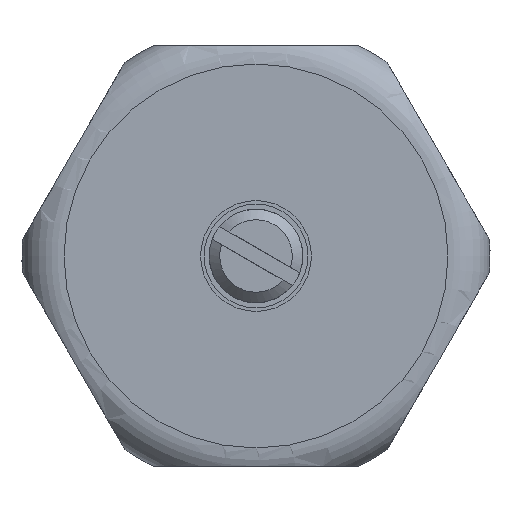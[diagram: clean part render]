
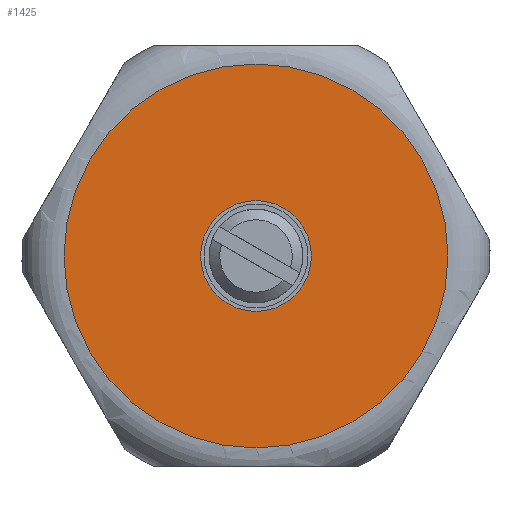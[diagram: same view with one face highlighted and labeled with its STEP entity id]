
A CAD part, left-side view. The second image highlights one B-rep face of the part: STEP entity #1425.
In plain terms, the highlighted planar face has unit normal (-1, 0, 0).
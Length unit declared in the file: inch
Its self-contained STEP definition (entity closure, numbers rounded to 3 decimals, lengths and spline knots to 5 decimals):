
#33=FACE_BOUND('',#335,.T.);
#116=CIRCLE('',#1543,0.14764);
#117=CIRCLE('',#1544,0.14764);
#143=CIRCLE('',#1588,0.51181);
#144=CIRCLE('',#1589,0.51181);
#251=FACE_OUTER_BOUND('',#334,.T.);
#334=EDGE_LOOP('',(#1087,#1088));
#335=EDGE_LOOP('',(#1089,#1090));
#552=VERTEX_POINT('',#2305);
#553=VERTEX_POINT('',#2306);
#592=VERTEX_POINT('',#2566);
#593=VERTEX_POINT('',#2567);
#718=EDGE_CURVE('',#552,#553,#116,.T.);
#719=EDGE_CURVE('',#553,#552,#117,.T.);
#775=EDGE_CURVE('',#592,#593,#143,.T.);
#776=EDGE_CURVE('',#593,#592,#144,.T.);
#1087=ORIENTED_EDGE('',*,*,#775,.F.);
#1088=ORIENTED_EDGE('',*,*,#776,.F.);
#1089=ORIENTED_EDGE('',*,*,#718,.T.);
#1090=ORIENTED_EDGE('',*,*,#719,.T.);
#1286=PLANE('',#1587);
#1425=ADVANCED_FACE('',(#251,#33),#1286,.T.);
#1543=AXIS2_PLACEMENT_3D('',#2307,#1831,#1832);
#1544=AXIS2_PLACEMENT_3D('',#2308,#1833,#1834);
#1587=AXIS2_PLACEMENT_3D('',#2565,#1935,#1936);
#1588=AXIS2_PLACEMENT_3D('',#2568,#1937,#1938);
#1589=AXIS2_PLACEMENT_3D('',#2569,#1939,#1940);
#1831=DIRECTION('center_axis',(1.,0.,0.));
#1832=DIRECTION('ref_axis',(0.,-0.866,0.5));
#1833=DIRECTION('center_axis',(1.,0.,0.));
#1834=DIRECTION('ref_axis',(0.,-0.866,0.5));
#1935=DIRECTION('center_axis',(-1.,0.,0.));
#1936=DIRECTION('ref_axis',(0.,-0.866,0.5));
#1937=DIRECTION('center_axis',(1.,0.,0.));
#1938=DIRECTION('ref_axis',(0.,0.866,-0.5));
#1939=DIRECTION('center_axis',(1.,0.,0.));
#1940=DIRECTION('ref_axis',(0.,0.866,-0.5));
#2305=CARTESIAN_POINT('',(-2.66747,-0.02656,-0.27052));
#2306=CARTESIAN_POINT('',(-2.66747,0.22916,-0.41816));
#2307=CARTESIAN_POINT('Origin',(-2.66747,0.1013,-0.34434));
#2308=CARTESIAN_POINT('Origin',(-2.66747,0.1013,-0.34434));
#2565=CARTESIAN_POINT('Origin',(-2.66747,0.54454,-0.60025));
#2566=CARTESIAN_POINT('',(-2.66747,0.54454,-0.60025));
#2567=CARTESIAN_POINT('',(-2.66747,-0.34194,-0.08844));
#2568=CARTESIAN_POINT('Origin',(-2.66747,0.1013,-0.34434));
#2569=CARTESIAN_POINT('Origin',(-2.66747,0.1013,-0.34434));
